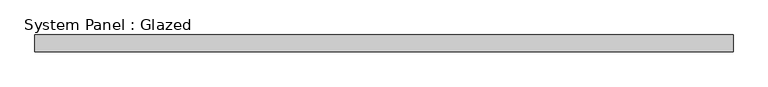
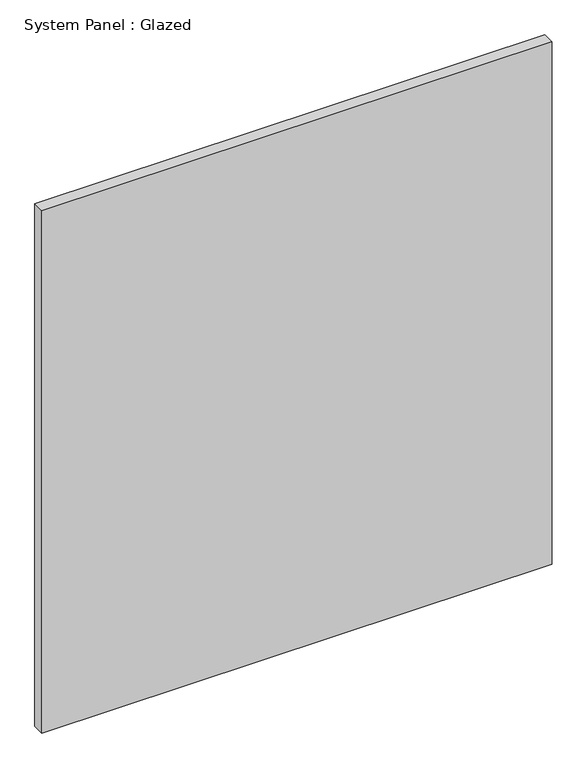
"""IFC4 building model written with IfcOpenShell, lengths in millimetres: plate geometry, System Panel : Glazed."""

from ifc_helpers import new_model, si_unit, origin, origin_with_axes, place, context, project, spatial, polyline, outline, extrude, source, transform, mapped, element, save


def system_panel_glazed_0919b3b7(model_context):
    return source(origin(), model_context, "Body", "SweptSolid", [
        extrude(outline(polyline([(534.3071428, -44.45), (-534.3071428, -44.45), (-534.3071428, -19.05), (534.3071428, -19.05), (534.3071428, -44.45)])), origin_with_axes(), (0.0, 0.0, 1.0), 1155.7),
    ])


if __name__ == "__main__":
    model = new_model("IFC4")
    model_context = context("Model", 3, world=origin())
    ifc_project = project(units=[si_unit("LENGTHUNIT", "METRE", prefix="MILLI")], contexts=[model_context])
    site = spatial("IfcSite", under=ifc_project)
    building = spatial("IfcBuilding", under=site)
    placement = place(None, origin())
    system_panel_glazed_shape = system_panel_glazed_0919b3b7(model_context)
    element("IfcPlate", 1, ObjectType="System Panel : Glazed", at=placement, inside=building, context=model_context, shape_type="MappedRepresentation", body=[
        mapped(system_panel_glazed_shape, transform((0.0, 0.0, 0.0), x_axis=(1.0, 0.0, 0.0), y_axis=(0.0, 1.0, 0.0), z_axis=(0.0, 0.0, 1.0))),
    ])
    save(model, "model.ifc")
